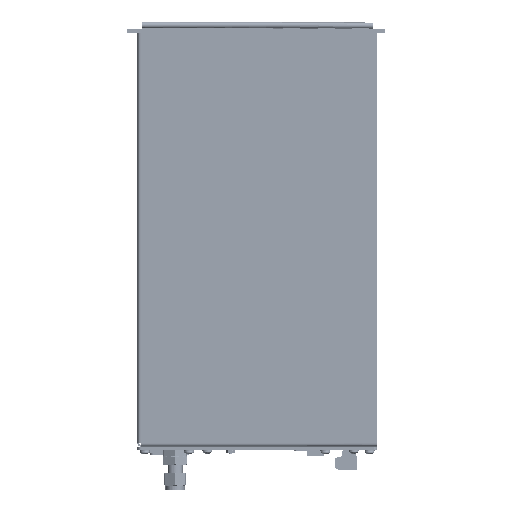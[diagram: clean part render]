
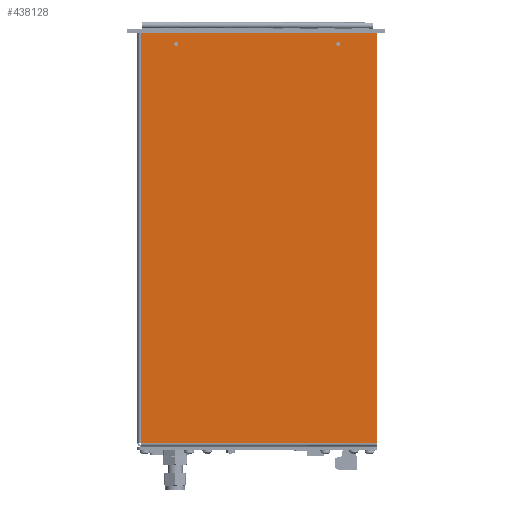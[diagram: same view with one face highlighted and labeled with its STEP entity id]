
A CAD part, left-side view. The second image highlights one B-rep face of the part: STEP entity #438128.
In plain terms, the highlighted planar face has unit normal (-1, 0, 0).
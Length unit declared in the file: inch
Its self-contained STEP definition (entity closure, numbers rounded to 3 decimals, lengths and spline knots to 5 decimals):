
#45698 = VERTEX_POINT ( 'NONE', #632635 ) ;
#46687 = EDGE_CURVE ( 'NONE', #121470, #101096, #266363, .T. ) ;
#48291 = ORIENTED_EDGE ( 'NONE', *, *, #251055, .F. ) ;
#66175 = AXIS2_PLACEMENT_3D ( 'NONE', #664671, #530845, #716118 ) ;
#67646 = EDGE_CURVE ( 'NONE', #332493, #45698, #767096, .T. ) ;
#69801 = CARTESIAN_POINT ( 'NONE',  ( -5.46593, 0.20707, 23.13069 ) ) ;
#73617 = DIRECTION ( 'NONE',  ( 0., 0., 1. ) ) ;
#74763 = AXIS2_PLACEMENT_3D ( 'NONE', #245944, #715242, #411632 ) ;
#101096 = VERTEX_POINT ( 'NONE', #113989 ) ;
#113219 = ORIENTED_EDGE ( 'NONE', *, *, #506962, .T. ) ;
#113989 = CARTESIAN_POINT ( 'NONE',  ( -5.46593, -0.91593, 23.51319 ) ) ;
#121470 = VERTEX_POINT ( 'NONE', #399521 ) ;
#123841 = ORIENTED_EDGE ( 'NONE', *, *, #636002, .F. ) ;
#132514 = CARTESIAN_POINT ( 'NONE',  ( -5.46593, 4.90707, 23.13069 ) ) ;
#132765 = CARTESIAN_POINT ( 'NONE',  ( -5.46593, 0.20707, 23.19319 ) ) ;
#139932 = VECTOR ( 'NONE', #275251, 39.37008 ) ;
#150131 = CIRCLE ( 'NONE', #74763, 0.0625 ) ;
#151568 = LINE ( 'NONE', #506458, #618132 ) ;
#173814 = PLANE ( 'NONE',  #645845 ) ;
#183196 = EDGE_CURVE ( 'NONE', #101096, #423448, #151568, .T. ) ;
#185476 = FACE_BOUND ( 'NONE', #341399, .T. ) ;
#203363 = VERTEX_POINT ( 'NONE', #418244 ) ;
#203551 = DIRECTION ( 'NONE',  ( -1., 0., 0. ) ) ;
#233727 = ORIENTED_EDGE ( 'NONE', *, *, #46687, .T. ) ;
#238455 = DIRECTION ( 'NONE',  ( -1., 0., 0. ) ) ;
#240753 = FACE_BOUND ( 'NONE', #762128, .T. ) ;
#245944 = CARTESIAN_POINT ( 'NONE',  ( -5.46593, 4.90707, 23.19319 ) ) ;
#251055 = EDGE_CURVE ( 'NONE', #45698, #332493, #589619, .T. ) ;
#266363 = LINE ( 'NONE', #747276, #333790 ) ;
#275251 = DIRECTION ( 'NONE',  ( 0., -1., 0. ) ) ;
#290544 = EDGE_CURVE ( 'NONE', #610054, #714014, #150131, .T. ) ;
#293676 = CARTESIAN_POINT ( 'NONE',  ( -5.46593, 0.20707, 23.19319 ) ) ;
#332493 = VERTEX_POINT ( 'NONE', #69801 ) ;
#333790 = VECTOR ( 'NONE', #569786, 39.37008 ) ;
#341399 = EDGE_LOOP ( 'NONE', ( #606873, #708889 ) ) ;
#357059 = CARTESIAN_POINT ( 'NONE',  ( -5.46593, 5.94307, 23.51319 ) ) ;
#362913 = CARTESIAN_POINT ( 'NONE',  ( -5.46593, -0.91593, 11.51319 ) ) ;
#365406 = EDGE_CURVE ( 'NONE', #714014, #610054, #405995, .T. ) ;
#365438 = LINE ( 'NONE', #617553, #514858 ) ;
#373208 = DIRECTION ( 'NONE',  ( 0., 0., 1. ) ) ;
#383895 = ORIENTED_EDGE ( 'NONE', *, *, #67646, .F. ) ;
#399521 = CARTESIAN_POINT ( 'NONE',  ( -5.46593, -0.91593, 11.60419 ) ) ;
#405033 = CARTESIAN_POINT ( 'NONE',  ( -5.46593, 5.94307, 11.60419 ) ) ;
#405995 = CIRCLE ( 'NONE', #66175, 0.0625 ) ;
#411632 = DIRECTION ( 'NONE',  ( 0., 0., 1. ) ) ;
#418244 = CARTESIAN_POINT ( 'NONE',  ( -5.46593, 5.94307, 11.60419 ) ) ;
#423448 = VERTEX_POINT ( 'NONE', #357059 ) ;
#427063 = AXIS2_PLACEMENT_3D ( 'NONE', #293676, #238455, #549704 ) ;
#438128 = ADVANCED_FACE ( 'NONE', ( #240753, #185476, #540361 ), #173814, .F. ) ;
#464075 = EDGE_LOOP ( 'NONE', ( #113219, #233727, #726103, #123841 ) ) ;
#486139 = CARTESIAN_POINT ( 'NONE',  ( -5.46593, 4.90707, 23.25569 ) ) ;
#506458 = CARTESIAN_POINT ( 'NONE',  ( -5.46593, -0.91593, 23.51319 ) ) ;
#506962 = EDGE_CURVE ( 'NONE', #203363, #121470, #653274, .T. ) ;
#514858 = VECTOR ( 'NONE', #73617, 39.37008 ) ;
#530845 = DIRECTION ( 'NONE',  ( -1., 0., 0. ) ) ;
#540361 = FACE_OUTER_BOUND ( 'NONE', #464075, .T. ) ;
#549704 = DIRECTION ( 'NONE',  ( 0., 0., 1. ) ) ;
#551975 = AXIS2_PLACEMENT_3D ( 'NONE', #132765, #203551, #373208 ) ;
#569786 = DIRECTION ( 'NONE',  ( 0., 0., 1. ) ) ;
#589619 = CIRCLE ( 'NONE', #551975, 0.0625 ) ;
#606873 = ORIENTED_EDGE ( 'NONE', *, *, #290544, .F. ) ;
#610054 = VERTEX_POINT ( 'NONE', #486139 ) ;
#617553 = CARTESIAN_POINT ( 'NONE',  ( -5.46593, 5.94307, 11.51319 ) ) ;
#618132 = VECTOR ( 'NONE', #750874, 39.37008 ) ;
#632635 = CARTESIAN_POINT ( 'NONE',  ( -5.46593, 0.20707, 23.25569 ) ) ;
#636002 = EDGE_CURVE ( 'NONE', #203363, #423448, #365438, .T. ) ;
#645845 = AXIS2_PLACEMENT_3D ( 'NONE', #362913, #713956, #654715 ) ;
#653274 = LINE ( 'NONE', #405033, #139932 ) ;
#654715 = DIRECTION ( 'NONE',  ( 0., 0., -1. ) ) ;
#664671 = CARTESIAN_POINT ( 'NONE',  ( -5.46593, 4.90707, 23.19319 ) ) ;
#708889 = ORIENTED_EDGE ( 'NONE', *, *, #365406, .F. ) ;
#713956 = DIRECTION ( 'NONE',  ( 1., 0., 0. ) ) ;
#714014 = VERTEX_POINT ( 'NONE', #132514 ) ;
#715242 = DIRECTION ( 'NONE',  ( -1., 0., 0. ) ) ;
#716118 = DIRECTION ( 'NONE',  ( 0., 0., 1. ) ) ;
#726103 = ORIENTED_EDGE ( 'NONE', *, *, #183196, .T. ) ;
#747276 = CARTESIAN_POINT ( 'NONE',  ( -5.46593, -0.91593, 11.51319 ) ) ;
#750874 = DIRECTION ( 'NONE',  ( 0., 1., 0. ) ) ;
#762128 = EDGE_LOOP ( 'NONE', ( #48291, #383895 ) ) ;
#767096 = CIRCLE ( 'NONE', #427063, 0.0625 ) ;
